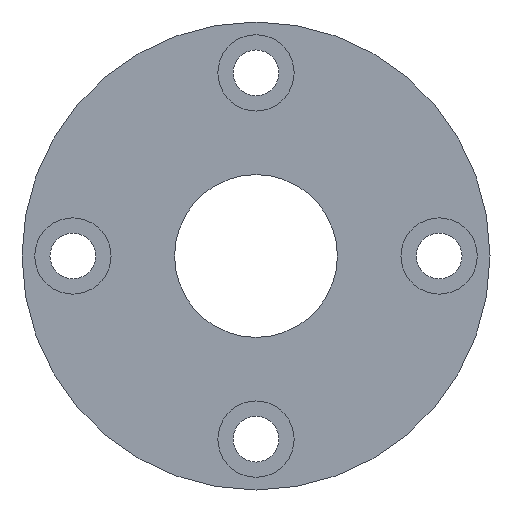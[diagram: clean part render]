
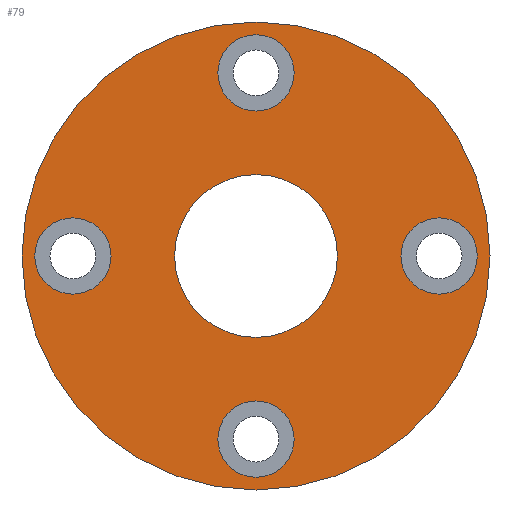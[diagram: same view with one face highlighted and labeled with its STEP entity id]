
A CAD part, left-side view. The second image highlights one B-rep face of the part: STEP entity #79.
In plain terms, the highlighted planar face has unit normal (-1, 0, 0).
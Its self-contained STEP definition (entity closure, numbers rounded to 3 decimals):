
#79 = ADVANCED_FACE( '', ( #110, #111, #112, #113, #114, #115 ), #116, .T. );
#110 = FACE_BOUND( '', #172, .T. );
#111 = FACE_BOUND( '', #173, .T. );
#112 = FACE_BOUND( '', #174, .T. );
#113 = FACE_BOUND( '', #175, .T. );
#114 = FACE_BOUND( '', #176, .T. );
#115 = FACE_OUTER_BOUND( '', #177, .T. );
#116 = PLANE( '', #178 );
#172 = EDGE_LOOP( '', ( #242 ) );
#173 = EDGE_LOOP( '', ( #243 ) );
#174 = EDGE_LOOP( '', ( #244 ) );
#175 = EDGE_LOOP( '', ( #245 ) );
#176 = EDGE_LOOP( '', ( #246 ) );
#177 = EDGE_LOOP( '', ( #247 ) );
#178 = AXIS2_PLACEMENT_3D( '', #248, #249, #250 );
#242 = ORIENTED_EDGE( '', *, *, #324, .T. );
#243 = ORIENTED_EDGE( '', *, *, #325, .T. );
#244 = ORIENTED_EDGE( '', *, *, #326, .T. );
#245 = ORIENTED_EDGE( '', *, *, #327, .T. );
#246 = ORIENTED_EDGE( '', *, *, #328, .T. );
#247 = ORIENTED_EDGE( '', *, *, #329, .F. );
#248 = CARTESIAN_POINT( '', ( 0., 23., 0. ) );
#249 = DIRECTION( '', ( -1., 0., 0. ) );
#250 = DIRECTION( '', ( 0., 0., 1. ) );
#324 = EDGE_CURVE( '', #354, #354, #355, .T. );
#325 = EDGE_CURVE( '', #356, #356, #357, .F. );
#326 = EDGE_CURVE( '', #358, #358, #359, .T. );
#327 = EDGE_CURVE( '', #360, #360, #361, .T. );
#328 = EDGE_CURVE( '', #362, #362, #363, .T. );
#329 = EDGE_CURVE( '', #364, #364, #365, .T. );
#354 = VERTEX_POINT( '', #398 );
#355 = CIRCLE( '', #399, 8. );
#356 = VERTEX_POINT( '', #400 );
#357 = CIRCLE( '', #401, 3.75 );
#358 = VERTEX_POINT( '', #402 );
#359 = CIRCLE( '', #403, 3.75 );
#360 = VERTEX_POINT( '', #404 );
#361 = CIRCLE( '', #405, 3.75 );
#362 = VERTEX_POINT( '', #406 );
#363 = CIRCLE( '', #407, 3.75 );
#364 = VERTEX_POINT( '', #408 );
#365 = CIRCLE( '', #409, 23. );
#398 = CARTESIAN_POINT( '', ( 0., 0., -8. ) );
#399 = AXIS2_PLACEMENT_3D( '', #450, #451, #452 );
#400 = CARTESIAN_POINT( '', ( 0., 18., 3.75 ) );
#401 = AXIS2_PLACEMENT_3D( '', #453, #454, #455 );
#402 = CARTESIAN_POINT( '', ( 0., 0., 14.25 ) );
#403 = AXIS2_PLACEMENT_3D( '', #456, #457, #458 );
#404 = CARTESIAN_POINT( '', ( 0., 0., -21.75 ) );
#405 = AXIS2_PLACEMENT_3D( '', #459, #460, #461 );
#406 = CARTESIAN_POINT( '', ( 0., -18., -3.75 ) );
#407 = AXIS2_PLACEMENT_3D( '', #462, #463, #464 );
#408 = CARTESIAN_POINT( '', ( 0., 0., -23. ) );
#409 = AXIS2_PLACEMENT_3D( '', #465, #466, #467 );
#450 = CARTESIAN_POINT( '', ( 0., 0., 0. ) );
#451 = DIRECTION( '', ( 1., 0., 0. ) );
#452 = DIRECTION( '', ( 0., 0., -1. ) );
#453 = CARTESIAN_POINT( '', ( 0., 18., 0. ) );
#454 = DIRECTION( '', ( -1., 0., 0. ) );
#455 = DIRECTION( '', ( 0., 0., 1. ) );
#456 = CARTESIAN_POINT( '', ( 0., 0., 18. ) );
#457 = DIRECTION( '', ( 1., 0., 0. ) );
#458 = DIRECTION( '', ( 0., 0., -1. ) );
#459 = CARTESIAN_POINT( '', ( 0., 0., -18. ) );
#460 = DIRECTION( '', ( 1., 0., 0. ) );
#461 = DIRECTION( '', ( 0., 0., -1. ) );
#462 = CARTESIAN_POINT( '', ( 0., -18., 0. ) );
#463 = DIRECTION( '', ( 1., 0., 0. ) );
#464 = DIRECTION( '', ( 0., 0., -1. ) );
#465 = CARTESIAN_POINT( '', ( 0., 0., 0. ) );
#466 = DIRECTION( '', ( 1., 0., 0. ) );
#467 = DIRECTION( '', ( 0., 0., -1. ) );
